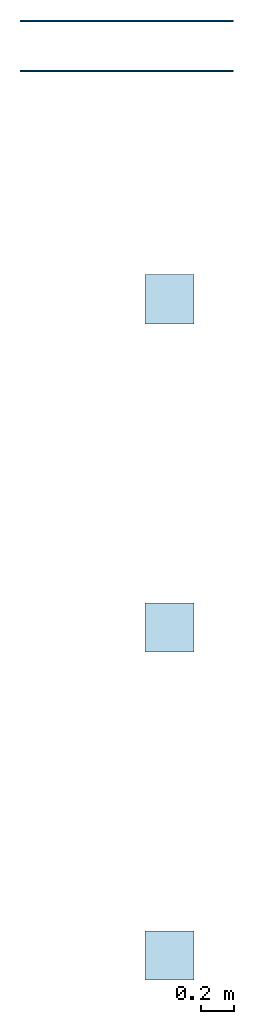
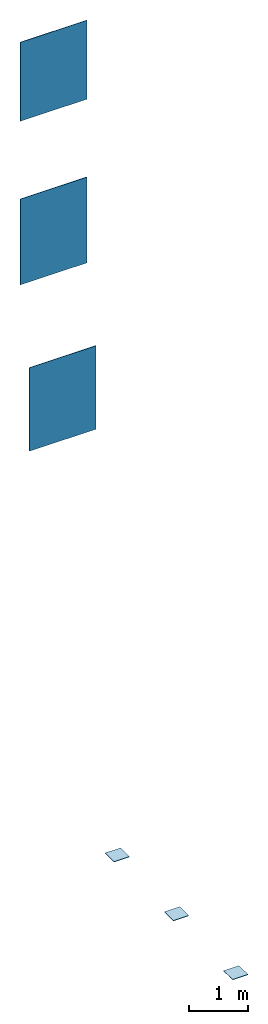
# One storey: 3 slabs, 3 walls.
"""IFC2X3 building model written with IfcOpenShell, lengths in millimetres."""

import ifcopenshell
import ifcopenshell.guid

model = None  # the IFC model being written
_history = None  # IfcOwnerHistory: only IFC2X3 demands one
_inside = {}  # id of a spatial element -> (the spatial element, [elements in it])
_under = {}  # id of a project, library or spatial element -> (it, [spatial elements below it])
_declared = {}  # id of a project -> (the project, [libraries it declares])
_typed = {}  # id of a type object -> (the type object, [elements of that type])
_made_of = {}  # id of a material, layer set ... -> (it, [elements and type objects made of it])


def new_model(schema):
    """Start an empty IFC model of exactly this schema.

    Asked for "IFC4X3", IfcOpenShell would pick the latest addendum, in which some entities
    have other attributes; the version numbers below select the first issue.
    IFC2X3 requires an IfcOwnerHistory on every rooted entity: one is made here for all.
    """
    global model, _history
    if schema == "IFC4X3":
        model = ifcopenshell.file(schema_version=(4, 3, 0, 0))
    else:
        model = ifcopenshell.file(schema=schema)
    _inside.clear()
    _under.clear()
    _declared.clear()
    _typed.clear()
    _made_of.clear()
    _history = None
    if model.schema == "IFC2X3":
        org = make("IfcOrganization", Name="unknown")
        user = make(
            "IfcPersonAndOrganization",
            ThePerson=make("IfcPerson", FamilyName="unknown"),
            TheOrganization=org,
        )
        app = make(
            "IfcApplication",
            ApplicationDeveloper=org,
            Version="unknown",
            ApplicationFullName="unknown",
            ApplicationIdentifier="unknown",
        )
        _history = make(
            "IfcOwnerHistory",
            OwningUser=user,
            OwningApplication=app,
            ChangeAction="ADDED",
            CreationDate=0,
        )
    return model


def make(cls, **values):
    """One entity of the class cls with the attributes given. An attribute that is None is left unset."""
    return model.create_entity(
        cls, **{name: value for name, value in values.items() if value is not None}
    )


def entity(cls, *values):
    """Any entity or typed value of the class cls, its attributes in the order of the schema. None: left unset."""
    e = model.create_entity(cls)
    for i, value in enumerate(values):
        if value is not None:
            e[i] = value
    return e


def rooted(cls, **values):
    """An entity with a GlobalId (a new one), such as an element, a storey or a relation."""
    return make(cls, GlobalId=ifcopenshell.guid.new(), OwnerHistory=_history, **values)


def si_unit(unit_type, name, prefix=None):
    """IfcSIUnit, for example si_unit("LENGTHUNIT", "METRE", prefix="MILLI")."""
    return make("IfcSIUnit", UnitType=unit_type, Prefix=prefix, Name=name)


def converted_unit(unit_type, name, factor, base, dimensions=None, offset=None):
    """IfcConversionBasedUnit, such as the inch: factor (a typed value) times the base unit."""
    return make(
        "IfcConversionBasedUnit"
        if offset is None
        else "IfcConversionBasedUnitWithOffset",
        ConversionOffset=offset,
        Dimensions=None
        if dimensions is None
        else entity("IfcDimensionalExponents", *dimensions),
        UnitType=unit_type,
        Name=name,
        ConversionFactor=make(
            "IfcMeasureWithUnit", ValueComponent=factor, UnitComponent=base
        ),
    )


def derived_unit(unit_type, elements):
    """IfcDerivedUnit: a product of units, each with its exponent."""
    return make(
        "IfcDerivedUnit",
        Elements=[
            make("IfcDerivedUnitElement", Unit=unit, Exponent=power)
            for unit, power in elements
        ],
        UnitType=unit_type,
    )


def assignment(units):
    """IfcUnitAssignment: the units of a project."""
    return None if units is None else make("IfcUnitAssignment", Units=units)


def point(xyz):
    """IfcCartesianPoint."""
    return None if xyz is None else make("IfcCartesianPoint", Coordinates=xyz)


def direction(xyz):
    """IfcDirection."""
    return None if xyz is None else make("IfcDirection", DirectionRatios=xyz)


def frame(location, z_axis=None, x_axis=None):
    """IfcAxis2Placement3D, a coordinate frame: its origin and axes. An axis left out is left unset."""
    return make(
        "IfcAxis2Placement3D",
        Location=point(location),
        Axis=direction(z_axis),
        RefDirection=direction(x_axis),
    )


def frame_2d(location, x_axis=None):
    """IfcAxis2Placement2D, a coordinate frame in the plane: its origin and x axis."""
    return make(
        "IfcAxis2Placement2D", Location=point(location), RefDirection=direction(x_axis)
    )


def origin():
    """The frame at (0, 0, 0) with its axes left unset."""
    return frame((0.0, 0.0, 0.0))


def origin_2d_with_axis():
    """The frame at (0, 0) in the plane with the x axis (1, 0) written out."""
    return frame_2d((0.0, 0.0), x_axis=(1.0, 0.0))


def place(relative_to, where):
    """IfcLocalPlacement: puts the frame where relative to a parent placement (None: the world)."""
    return make(
        "IfcLocalPlacement", PlacementRelTo=relative_to, RelativePlacement=where
    )


def context(
    kind, dimensions, precision=None, world=None, true_north=None, identifier=None
):
    """IfcGeometricRepresentationContext, for example the 3D "Model" context."""
    return make(
        "IfcGeometricRepresentationContext",
        ContextIdentifier=identifier,
        ContextType=kind,
        CoordinateSpaceDimension=dimensions,
        Precision=precision,
        WorldCoordinateSystem=world,
        TrueNorth=true_north,
    )


def subcontext(parent, identifier, kind, view, scale=None):
    """IfcGeometricRepresentationSubContext, for example "Body" below "Model"."""
    return make(
        "IfcGeometricRepresentationSubContext",
        ContextIdentifier=identifier,
        ContextType=kind,
        ParentContext=parent,
        TargetScale=scale,
        TargetView=view,
    )


def project(units=None, contexts=None):
    """IfcProject with its units and contexts."""
    return rooted(
        "IfcProject",
        Name="project",
        RepresentationContexts=contexts,
        UnitsInContext=assignment(units),
    )


def spatial(cls, under=None, at=None, **own):
    """A site, building, storey or space (cls), placed at a placement, below another one or the project."""
    s = rooted(cls, ObjectPlacement=at, **own)
    if under is not None:
        _under.setdefault(under.id(), (under, []))[1].append(s)
    return s


def profile(cls, at=None, kind="AREA", **sizes):
    """A parametric profile (cls). Its sizes go by their IFC names, for example OverallWidth=200.0."""
    return make(cls, ProfileType=kind, Position=at, **sizes)


def rectangle(**sizes):
    """IfcRectangleProfileDef."""
    return profile("IfcRectangleProfileDef", **sizes)


def extrude(swept, where, along, depth):
    """IfcExtrudedAreaSolid: the profile swept, set in the frame where, extruded along a direction by depth."""
    return make(
        "IfcExtrudedAreaSolid",
        SweptArea=swept,
        Position=where,
        ExtrudedDirection=direction(along),
        Depth=depth,
    )


def shape(context_of_items, identifier, shape_type, items):
    """IfcShapeRepresentation: the items that make up one representation, for example the "Body"."""
    return make(
        "IfcShapeRepresentation",
        ContextOfItems=context_of_items,
        RepresentationIdentifier=identifier,
        RepresentationType=shape_type,
        Items=items,
    )


def material(Name=None, Category=None):
    """IfcMaterial."""
    return make("IfcMaterial", Name=Name, Category=Category)


def layer(
    of_material, thickness, ventilated=None, Name=None, Category=None, Priority=None
):
    """IfcMaterialLayer: one layer of a wall or slab, of a material (None: an air gap)."""
    return make(
        "IfcMaterialLayer",
        Material=of_material,
        LayerThickness=thickness,
        IsVentilated=ventilated,
        Name=Name,
        Category=Category,
        Priority=Priority,
    )


def layer_set(layers, Name=None):
    """IfcMaterialLayerSet."""
    return make("IfcMaterialLayerSet", MaterialLayers=layers, LayerSetName=Name)


def layer_usage(for_layer_set, set_direction, sense, offset, extent=None):
    """IfcMaterialLayerSetUsage: how a layer set lies in its element."""
    return make(
        "IfcMaterialLayerSetUsage",
        ForLayerSet=for_layer_set,
        LayerSetDirection=set_direction,
        DirectionSense=sense,
        OffsetFromReferenceLine=offset,
        ReferenceExtent=extent,
    )


def made_of(thing, what):
    """Note that an element or type object is made of a material, layer set ...; save() writes the relation."""
    if what is not None:
        _made_of.setdefault(what.id(), (what, []))[1].append(thing)
    return thing


def type_object(cls, material=None, **own):
    """A type object (cls), such as IfcWallType, which elements share."""
    return made_of(rooted(cls, **own), material)


def element(
    cls,
    number,
    at=None,
    inside=None,
    cuts=None,
    type_object=None,
    material=None,
    context=None,
    identifier="Body",
    shape_type=None,
    held_by="IfcProductDefinitionShape",
    body=None,
    shapes=None,
    **own,
):
    """One element of the class cls, such as IfcWall. Its Tag is "e" and its number.

    at: its placement. inside: the storey or other place that contains it. cuts: it is an
    opening in that element (IfcRelVoidsElement). A single representation is given by context,
    identifier, shape_type and body (its items); several are given by shapes. held_by: the class
    of the entity that holds the representations. save() writes the other relations.
    """
    e = rooted(cls, Tag="e%d" % number, ObjectPlacement=at, **own)
    if body is not None:
        shapes = [shape(context, identifier, shape_type, body)]
    if shapes is not None:
        e.Representation = make(held_by, Representations=shapes)
    if inside is not None:
        _inside.setdefault(inside.id(), (inside, []))[1].append(e)
    if cuts is not None:
        rooted(
            "IfcRelVoidsElement", RelatingBuildingElement=cuts, RelatedOpeningElement=e
        )
    if type_object is not None:
        _typed.setdefault(type_object.id(), (type_object, []))[1].append(e)
    return made_of(e, material)


def aggregate(whole, parts):
    """IfcRelAggregates: a whole, such as a stair, and the parts it consists of."""
    return rooted("IfcRelAggregates", RelatingObject=whole, RelatedObjects=parts)


def save(model, path):
    """Write the relations noted so far, then the file.

    IfcRelAggregates (storeys below a building ...), IfcRelContainedInSpatialStructure (elements
    in a storey), IfcRelDefinesByType, IfcRelAssociatesMaterial and IfcRelDeclares: one each for
    every whole, place, type object, material and project.
    """
    for whole, parts in _under.values():
        aggregate(whole, parts)
    for where, things in _inside.values():
        rooted(
            "IfcRelContainedInSpatialStructure",
            RelatedElements=things,
            RelatingStructure=where,
        )
    for kind, things in _typed.values():
        rooted("IfcRelDefinesByType", RelatedObjects=things, RelatingType=kind)
    for what, things in _made_of.values():
        rooted("IfcRelAssociatesMaterial", RelatedObjects=things, RelatingMaterial=what)
    for by, libraries in _declared.values():
        rooted("IfcRelDeclares", RelatingContext=by, RelatedDefinitions=libraries)
    model.write(path)


model = new_model("IFC2X3")

# Units and contexts
model_context = context("Model", 3, precision=0.01, world=origin(), true_north=direction((6.12303176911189e-17, 1.0)))
body_context = subcontext(model_context, "Body", "Model", "MODEL_VIEW")
ifc_project = project(units=[si_unit("LENGTHUNIT", "METRE", prefix="MILLI"), si_unit("AREAUNIT", "SQUARE_METRE"), si_unit("VOLUMEUNIT", "CUBIC_METRE"), converted_unit("PLANEANGLEUNIT", "DEGREE", entity("IfcRatioMeasure", 0.0174532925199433), si_unit("PLANEANGLEUNIT", "RADIAN"), dimensions=[0, 0, 0, 0, 0, 0, 0]), si_unit("MASSUNIT", "GRAM", prefix="KILO"), derived_unit("MASSDENSITYUNIT", [(si_unit("MASSUNIT", "GRAM", prefix="KILO"), 1), (si_unit("LENGTHUNIT", "METRE"), -3)]), derived_unit("MOMENTOFINERTIAUNIT", [(si_unit("LENGTHUNIT", "METRE"), 4)]), si_unit("TIMEUNIT", "SECOND"), si_unit("FREQUENCYUNIT", "HERTZ"), si_unit("THERMODYNAMICTEMPERATUREUNIT", "DEGREE_CELSIUS"), derived_unit("THERMALTRANSMITTANCEUNIT", [(si_unit("MASSUNIT", "GRAM", prefix="KILO"), 1), (si_unit("THERMODYNAMICTEMPERATUREUNIT", "KELVIN"), -1), (si_unit("TIMEUNIT", "SECOND"), -3)]), derived_unit("VOLUMETRICFLOWRATEUNIT", [(si_unit("LENGTHUNIT", "METRE"), 3), (si_unit("TIMEUNIT", "SECOND"), -1)]), si_unit("ELECTRICCURRENTUNIT", "AMPERE"), si_unit("ELECTRICVOLTAGEUNIT", "VOLT"), si_unit("POWERUNIT", "WATT"), si_unit("FORCEUNIT", "NEWTON", prefix="KILO"), si_unit("ILLUMINANCEUNIT", "LUX"), si_unit("LUMINOUSFLUXUNIT", "LUMEN"), si_unit("LUMINOUSINTENSITYUNIT", "CANDELA"), derived_unit("USERDEFINED", [(si_unit("MASSUNIT", "GRAM", prefix="KILO"), -1), (si_unit("LENGTHUNIT", "METRE"), -2), (si_unit("TIMEUNIT", "SECOND"), 3), (si_unit("LUMINOUSFLUXUNIT", "LUMEN"), 1)]), derived_unit("LINEARVELOCITYUNIT", [(si_unit("LENGTHUNIT", "METRE"), 1), (si_unit("TIMEUNIT", "SECOND"), -1)]), si_unit("PRESSUREUNIT", "PASCAL"), derived_unit("USERDEFINED", [(si_unit("LENGTHUNIT", "METRE"), -2), (si_unit("MASSUNIT", "GRAM", prefix="KILO"), 1), (si_unit("TIMEUNIT", "SECOND"), -2)]), derived_unit("LINEARFORCEUNIT", [(si_unit("MASSUNIT", "GRAM", prefix="KILO"), 1), (si_unit("LENGTHUNIT", "METRE"), 1), (si_unit("TIMEUNIT", "SECOND"), -2), (si_unit("LENGTHUNIT", "METRE"), -1)]), derived_unit("PLANARFORCEUNIT", [(si_unit("MASSUNIT", "GRAM", prefix="KILO"), 1), (si_unit("LENGTHUNIT", "METRE"), 1), (si_unit("TIMEUNIT", "SECOND"), -2), (si_unit("LENGTHUNIT", "METRE"), -2)])], contexts=[model_context])

# Site, building, storey
site_placement = place(None, origin())
site = spatial("IfcSite", under=ifc_project, at=site_placement, Name="Default", CompositionType="ELEMENT")
building_placement = place(site_placement, origin())
building = spatial("IfcBuilding", under=site, at=building_placement, CompositionType="ELEMENT")
storey_placement = place(building_placement, origin())
storey = spatial("IfcBuildingStorey", under=building, at=storey_placement, Name="Level 0", CompositionType="ELEMENT", Elevation=0.0)

# Slabs
ifc_material_1 = material(Name="Prestigio-Arcadia-Lucido-Mosaico-Micro-30x30 NA35")
ifc_layer_1 = layer(ifc_material_1, 9.0)
ifc_material_2 = material(Name="<Unnamed>")
ifc_layer_2 = layer(ifc_material_2, 1.0)
ifc_layer_set_1 = layer_set([ifc_layer_1, ifc_layer_2], Name="Floor:Floor_Tiles_Refin-Prestigio-Arcadia-Lucido-Mosaico-Micro-30x30 NA35")
ifc_layer_usage_1 = layer_usage(ifc_layer_set_1, "AXIS3", "POSITIVE", 0.0)
slab_type_1 = type_object("IfcSlabType", Name="Floor:Floor_Tiles_Refin-Prestigio-Arcadia-Lucido-Mosaico-Micro-30x30 NA35", PredefinedType="FLOOR", material=ifc_layer_set_1)
slab_1_placement = place(storey_placement, origin())
element("IfcSlab", 1, at=slab_1_placement, inside=storey, type_object=slab_type_1, material=ifc_layer_usage_1, Name="Floor:Floor_Tiles_Refin-Prestigio-Arcadia-Lucido-Mosaico-Micro-30x30 NA35", ObjectType="Floor:Floor_Tiles_Refin-Prestigio-Arcadia-Lucido-Mosaico-Micro-30x30 NA35", PredefinedType="FLOOR", context=body_context, shape_type="SweptSolid", body=[
    extrude(rectangle(XDim=300.000000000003, YDim=300.000000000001, at=frame_2d((5.40012479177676e-13, 0.0), x_axis=(1.0, 0.0))), frame((6829.68614186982, 6439.46237428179, 0.0), z_axis=(0.0, 0.0, -1.0), x_axis=(0.0, 1.0, 0.0)), (0.0, 0.0, 1.0), 10.0),
])
ifc_material_3 = material(Name="Prestigio-Impero-Lucido-Mosaico-Micro-30x30 NA36")
ifc_layer_3 = layer(ifc_material_3, 9.0)
ifc_layer_4 = layer(ifc_material_2, 1.0)
ifc_layer_set_2 = layer_set([ifc_layer_3, ifc_layer_4], Name="Floor:Floor_Tiles_Refin-Prestigio-Impero-Lucido-Mosaico-Micro-30x30 NA36")
ifc_layer_usage_2 = layer_usage(ifc_layer_set_2, "AXIS3", "POSITIVE", 0.0)
slab_type_2 = type_object("IfcSlabType", Name="Floor:Floor_Tiles_Refin-Prestigio-Impero-Lucido-Mosaico-Micro-30x30 NA36", PredefinedType="FLOOR", material=ifc_layer_set_2)
slab_2_placement = place(storey_placement, origin())
element("IfcSlab", 2, at=slab_2_placement, inside=storey, type_object=slab_type_2, material=ifc_layer_usage_2, Name="Floor:Floor_Tiles_Refin-Prestigio-Impero-Lucido-Mosaico-Micro-30x30 NA36", ObjectType="Floor:Floor_Tiles_Refin-Prestigio-Impero-Lucido-Mosaico-Micro-30x30 NA36", PredefinedType="FLOOR", context=body_context, shape_type="SweptSolid", body=[
    extrude(rectangle(XDim=300.000000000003, YDim=300.000000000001, at=origin_2d_with_axis()), frame((6829.68614186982, 4439.46237428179, 0.0), z_axis=(0.0, 0.0, -1.0), x_axis=(0.0, 1.0, 0.0)), (0.0, 0.0, 1.0), 10.0),
])
ifc_material_4 = material(Name="Prestigio-Marquinia-Lucido-Mosaico-Micro-30x30 NA37")
ifc_layer_5 = layer(ifc_material_4, 9.0)
ifc_layer_6 = layer(ifc_material_2, 1.0)
ifc_layer_set_3 = layer_set([ifc_layer_5, ifc_layer_6], Name="Floor:Floor_Tiles_Refin-Prestigio-Marquinia-Lucido-Mosaico-Micro-30x30 NA37")
ifc_layer_usage_3 = layer_usage(ifc_layer_set_3, "AXIS3", "POSITIVE", 0.0)
slab_type_3 = type_object("IfcSlabType", Name="Floor:Floor_Tiles_Refin-Prestigio-Marquinia-Lucido-Mosaico-Micro-30x30 NA37", PredefinedType="FLOOR", material=ifc_layer_set_3)
slab_3_placement = place(storey_placement, origin())
element("IfcSlab", 3, at=slab_3_placement, inside=storey, type_object=slab_type_3, material=ifc_layer_usage_3, Name="Floor:Floor_Tiles_Refin-Prestigio-Marquinia-Lucido-Mosaico-Micro-30x30 NA37", ObjectType="Floor:Floor_Tiles_Refin-Prestigio-Marquinia-Lucido-Mosaico-Micro-30x30 NA37", PredefinedType="FLOOR", context=body_context, shape_type="SweptSolid", body=[
    extrude(rectangle(XDim=300.000000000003, YDim=300.000000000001, at=frame_2d((-5.40012479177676e-13, 0.0), x_axis=(1.0, 0.0))), frame((6829.68614186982, 2439.46237428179, 0.0), z_axis=(0.0, 0.0, -1.0), x_axis=(0.0, 1.0, 0.0)), (0.0, 0.0, 1.0), 10.0),
])

# Walls
ifc_layer_7 = layer(ifc_material_2, 1.0)
ifc_layer_8 = layer(ifc_material_3, 9.0)
ifc_layer_set_4 = layer_set([ifc_layer_7, ifc_layer_8], Name="Basic Wall:Wall_Tiles_Refin-Prestigio-Impero-Lucido-Mosaico-Micro-30x30 NA36")
ifc_layer_usage_4 = layer_usage(ifc_layer_set_4, "AXIS2", "NEGATIVE", 5.0)
wall_type_1 = type_object("IfcWallType", Name="Basic Wall:Wall_Tiles_Refin-Prestigio-Impero-Lucido-Mosaico-Micro-30x30 NA36", PredefinedType="STANDARD", material=ifc_layer_set_4)
wall_1_placement = place(storey_placement, frame((5917.37520617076, 8137.3838631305, 11032.4382752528)))
element("IfcWallStandardCase", 4, at=wall_1_placement, inside=storey, type_object=wall_type_1, material=ifc_layer_usage_4, Name="Basic Wall:Wall_Tiles_Refin-Prestigio-Impero-Lucido-Mosaico-Micro-30x30 NA36", ObjectType="Basic Wall:Wall_Tiles_Refin-Prestigio-Impero-Lucido-Mosaico-Micro-30x30 NA36", context=body_context, shape_type="SweptSolid", body=[
    extrude(rectangle(XDim=1300.0, YDim=9.99999999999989, at=frame_2d((650.0, 0.0), x_axis=(-1.0, 0.0))), origin(), (0.0, 0.0, 1.0), 1767.56172474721),
])
ifc_layer_9 = layer(ifc_material_2, 1.0)
ifc_layer_10 = layer(ifc_material_1, 9.0)
ifc_layer_set_5 = layer_set([ifc_layer_9, ifc_layer_10], Name="Basic Wall:Wall_Tiles_Refin-Prestigio-Arcadia-Lucido-Mosaico-Micro-30x30 NA35")
ifc_layer_usage_5 = layer_usage(ifc_layer_set_5, "AXIS2", "NEGATIVE", 5.0)
wall_type_2 = type_object("IfcWallType", Name="Basic Wall:Wall_Tiles_Refin-Prestigio-Arcadia-Lucido-Mosaico-Micro-30x30 NA35", PredefinedType="STANDARD", material=ifc_layer_set_5)
wall_2_placement = place(storey_placement, frame((5917.37520617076, 8137.38386313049, 14403.726734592)))
element("IfcWallStandardCase", 5, at=wall_2_placement, inside=storey, type_object=wall_type_2, material=ifc_layer_usage_5, Name="Basic Wall:Wall_Tiles_Refin-Prestigio-Arcadia-Lucido-Mosaico-Micro-30x30 NA35", ObjectType="Basic Wall:Wall_Tiles_Refin-Prestigio-Arcadia-Lucido-Mosaico-Micro-30x30 NA35", context=body_context, shape_type="SweptSolid", body=[
    extrude(rectangle(XDim=1300.0, YDim=9.99999999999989, at=frame_2d((650.0, 7.63833440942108e-14), x_axis=(-1.0, 0.0))), origin(), (0.0, 0.0, 1.0), 1625.69204496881),
])
ifc_layer_11 = layer(ifc_material_2, 1.0)
ifc_layer_12 = layer(ifc_material_4, 9.0)
ifc_layer_set_6 = layer_set([ifc_layer_11, ifc_layer_12], Name="Basic Wall:Wall_Tiles_Refin-Prestigio-Marquinia-Lucido-Mosaico-Micro-30x30 NA37")
ifc_layer_usage_6 = layer_usage(ifc_layer_set_6, "AXIS2", "NEGATIVE", 5.0)
wall_type_3 = type_object("IfcWallType", Name="Basic Wall:Wall_Tiles_Refin-Prestigio-Marquinia-Lucido-Mosaico-Micro-30x30 NA37", PredefinedType="STANDARD", material=ifc_layer_set_6)
wall_3_placement = place(storey_placement, frame((5917.37520617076, 7832.38386313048, 7790.23219877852)))
element("IfcWallStandardCase", 6, at=wall_3_placement, inside=storey, type_object=wall_type_3, material=ifc_layer_usage_6, Name="Basic Wall:Wall_Tiles_Refin-Prestigio-Marquinia-Lucido-Mosaico-Micro-30x30 NA37", ObjectType="Basic Wall:Wall_Tiles_Refin-Prestigio-Marquinia-Lucido-Mosaico-Micro-30x30 NA37", context=body_context, shape_type="SweptSolid", body=[
    extrude(rectangle(XDim=1300.0, YDim=9.99999999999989, at=frame_2d((650.0, 0.0), x_axis=(-1.0, 0.0))), origin(), (0.0, 0.0, 1.0), 1720.37867161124),
])

save(model, "model.ifc")
